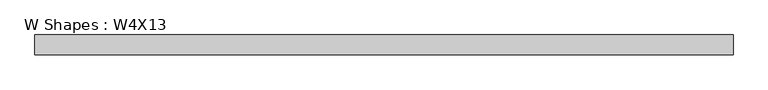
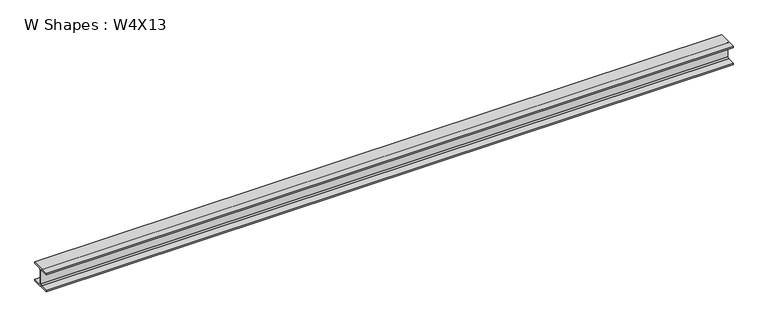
"""IFC4 building model written with IfcOpenShell, lengths in millimetres: beam geometry, W Shapes : W4X13."""

import ifcopenshell
import ifcopenshell.guid

model = None  # the IFC model being written
_history = None  # IfcOwnerHistory: only IFC2X3 demands one
_inside = {}  # id of a spatial element -> (the spatial element, [elements in it])
_under = {}  # id of a project, library or spatial element -> (it, [spatial elements below it])
_declared = {}  # id of a project -> (the project, [libraries it declares])
_typed = {}  # id of a type object -> (the type object, [elements of that type])
_made_of = {}  # id of a material, layer set ... -> (it, [elements and type objects made of it])


def new_model(schema):
    """Start an empty IFC model of exactly this schema.

    Asked for "IFC4X3", IfcOpenShell would pick the latest addendum, in which some entities
    have other attributes; the version numbers below select the first issue.
    IFC2X3 requires an IfcOwnerHistory on every rooted entity: one is made here for all.
    """
    global model, _history
    if schema == "IFC4X3":
        model = ifcopenshell.file(schema_version=(4, 3, 0, 0))
    else:
        model = ifcopenshell.file(schema=schema)
    _inside.clear()
    _under.clear()
    _declared.clear()
    _typed.clear()
    _made_of.clear()
    _history = None
    if model.schema == "IFC2X3":
        org = make("IfcOrganization", Name="unknown")
        user = make(
            "IfcPersonAndOrganization",
            ThePerson=make("IfcPerson", FamilyName="unknown"),
            TheOrganization=org,
        )
        app = make(
            "IfcApplication",
            ApplicationDeveloper=org,
            Version="unknown",
            ApplicationFullName="unknown",
            ApplicationIdentifier="unknown",
        )
        _history = make(
            "IfcOwnerHistory",
            OwningUser=user,
            OwningApplication=app,
            ChangeAction="ADDED",
            CreationDate=0,
        )
    return model


def make(cls, **values):
    """One entity of the class cls with the attributes given. An attribute that is None is left unset."""
    return model.create_entity(
        cls, **{name: value for name, value in values.items() if value is not None}
    )


def rooted(cls, **values):
    """An entity with a GlobalId (a new one), such as an element, a storey or a relation."""
    return make(cls, GlobalId=ifcopenshell.guid.new(), OwnerHistory=_history, **values)


def si_unit(unit_type, name, prefix=None):
    """IfcSIUnit, for example si_unit("LENGTHUNIT", "METRE", prefix="MILLI")."""
    return make("IfcSIUnit", UnitType=unit_type, Prefix=prefix, Name=name)


def assignment(units):
    """IfcUnitAssignment: the units of a project."""
    return None if units is None else make("IfcUnitAssignment", Units=units)


def point(xyz):
    """IfcCartesianPoint."""
    return None if xyz is None else make("IfcCartesianPoint", Coordinates=xyz)


def direction(xyz):
    """IfcDirection."""
    return None if xyz is None else make("IfcDirection", DirectionRatios=xyz)


def frame(location, z_axis=None, x_axis=None):
    """IfcAxis2Placement3D, a coordinate frame: its origin and axes. An axis left out is left unset."""
    return make(
        "IfcAxis2Placement3D",
        Location=point(location),
        Axis=direction(z_axis),
        RefDirection=direction(x_axis),
    )


def frame_2d(location, x_axis=None):
    """IfcAxis2Placement2D, a coordinate frame in the plane: its origin and x axis."""
    return make(
        "IfcAxis2Placement2D", Location=point(location), RefDirection=direction(x_axis)
    )


def origin():
    """The frame at (0, 0, 0) with its axes left unset."""
    return frame((0.0, 0.0, 0.0))


def place(relative_to, where):
    """IfcLocalPlacement: puts the frame where relative to a parent placement (None: the world)."""
    return make(
        "IfcLocalPlacement", PlacementRelTo=relative_to, RelativePlacement=where
    )


def context(
    kind, dimensions, precision=None, world=None, true_north=None, identifier=None
):
    """IfcGeometricRepresentationContext, for example the 3D "Model" context."""
    return make(
        "IfcGeometricRepresentationContext",
        ContextIdentifier=identifier,
        ContextType=kind,
        CoordinateSpaceDimension=dimensions,
        Precision=precision,
        WorldCoordinateSystem=world,
        TrueNorth=true_north,
    )


def project(units=None, contexts=None):
    """IfcProject with its units and contexts."""
    return rooted(
        "IfcProject",
        Name="project",
        RepresentationContexts=contexts,
        UnitsInContext=assignment(units),
    )


def spatial(cls, under=None, at=None, **own):
    """A site, building, storey or space (cls), placed at a placement, below another one or the project."""
    s = rooted(cls, ObjectPlacement=at, **own)
    if under is not None:
        _under.setdefault(under.id(), (under, []))[1].append(s)
    return s


def polyline(points):
    """IfcPolyline through the points."""
    return make("IfcPolyline", Points=[point(p) for p in points])


def circle_curve(where, radius):
    """IfcCircle in the frame where."""
    return make("IfcCircle", Position=where, Radius=radius)


def trimmed(basis, trim1, trim2, sense, master):
    """IfcTrimmedCurve: the piece of a basis curve between two trims."""
    return make(
        "IfcTrimmedCurve",
        BasisCurve=basis,
        Trim1=trim1,
        Trim2=trim2,
        SenseAgreement=sense,
        MasterRepresentation=master,
    )


def segment(curve, same_sense, transition):
    """IfcCompositeCurveSegment."""
    return make(
        "IfcCompositeCurveSegment",
        Transition=transition,
        SameSense=same_sense,
        ParentCurve=curve,
    )


def composite_curve(segments, self_intersect=None):
    """IfcCompositeCurve: segments joined end to end."""
    return make("IfcCompositeCurve", Segments=segments, SelfIntersect=self_intersect)


def outline(outer, holes=None, kind="AREA"):
    """IfcArbitraryClosedProfileDef: a profile drawn as a closed curve; with holes, ...WithVoids."""
    if holes is None:
        return make("IfcArbitraryClosedProfileDef", ProfileType=kind, OuterCurve=outer)
    return make(
        "IfcArbitraryProfileDefWithVoids",
        ProfileType=kind,
        OuterCurve=outer,
        InnerCurves=holes,
    )


def extrude(swept, where, along, depth):
    """IfcExtrudedAreaSolid: the profile swept, set in the frame where, extruded along a direction by depth."""
    return make(
        "IfcExtrudedAreaSolid",
        SweptArea=swept,
        Position=where,
        ExtrudedDirection=direction(along),
        Depth=depth,
    )


def shape(context_of_items, identifier, shape_type, items):
    """IfcShapeRepresentation: the items that make up one representation, for example the "Body"."""
    return make(
        "IfcShapeRepresentation",
        ContextOfItems=context_of_items,
        RepresentationIdentifier=identifier,
        RepresentationType=shape_type,
        Items=items,
    )


def source(mapping_origin, context_of_items, identifier, shape_type, items):
    """IfcRepresentationMap: a shape defined once, which mapped items show again and again."""
    return make(
        "IfcRepresentationMap",
        MappingOrigin=mapping_origin,
        MappedRepresentation=shape(context_of_items, identifier, shape_type, items),
    )


def transform(
    local_origin,
    x_axis=None,
    y_axis=None,
    z_axis=None,
    scale=None,
    scale2=None,
    scale3=None,
    uniform=True,
):
    """IfcCartesianTransformationOperator3D, or its non-uniform kind. x_axis, y_axis, z_axis: its Axis1, 2, 3."""
    if uniform:
        return make(
            "IfcCartesianTransformationOperator3D",
            Axis1=direction(x_axis),
            Axis2=direction(y_axis),
            LocalOrigin=point(local_origin),
            Scale=scale,
            Axis3=direction(z_axis),
        )
    return make(
        "IfcCartesianTransformationOperator3DnonUniform",
        Axis1=direction(x_axis),
        Axis2=direction(y_axis),
        LocalOrigin=point(local_origin),
        Scale=scale,
        Axis3=direction(z_axis),
        Scale2=scale2,
        Scale3=scale3,
    )


def mapped(mapping_source, mapping_target):
    """IfcMappedItem: shows the shape of a source again, moved by a transform."""
    return make(
        "IfcMappedItem", MappingSource=mapping_source, MappingTarget=mapping_target
    )


def made_of(thing, what):
    """Note that an element or type object is made of a material, layer set ...; save() writes the relation."""
    if what is not None:
        _made_of.setdefault(what.id(), (what, []))[1].append(thing)
    return thing


def element(
    cls,
    number,
    at=None,
    inside=None,
    cuts=None,
    type_object=None,
    material=None,
    context=None,
    identifier="Body",
    shape_type=None,
    held_by="IfcProductDefinitionShape",
    body=None,
    shapes=None,
    **own,
):
    """One element of the class cls, such as IfcWall. Its Tag is "e" and its number.

    at: its placement. inside: the storey or other place that contains it. cuts: it is an
    opening in that element (IfcRelVoidsElement). A single representation is given by context,
    identifier, shape_type and body (its items); several are given by shapes. held_by: the class
    of the entity that holds the representations. save() writes the other relations.
    """
    e = rooted(cls, Tag="e%d" % number, ObjectPlacement=at, **own)
    if body is not None:
        shapes = [shape(context, identifier, shape_type, body)]
    if shapes is not None:
        e.Representation = make(held_by, Representations=shapes)
    if inside is not None:
        _inside.setdefault(inside.id(), (inside, []))[1].append(e)
    if cuts is not None:
        rooted(
            "IfcRelVoidsElement", RelatingBuildingElement=cuts, RelatedOpeningElement=e
        )
    if type_object is not None:
        _typed.setdefault(type_object.id(), (type_object, []))[1].append(e)
    return made_of(e, material)


def aggregate(whole, parts):
    """IfcRelAggregates: a whole, such as a stair, and the parts it consists of."""
    return rooted("IfcRelAggregates", RelatingObject=whole, RelatedObjects=parts)


def save(model, path):
    """Write the relations noted so far, then the file.

    IfcRelAggregates (storeys below a building ...), IfcRelContainedInSpatialStructure (elements
    in a storey), IfcRelDefinesByType, IfcRelAssociatesMaterial and IfcRelDeclares: one each for
    every whole, place, type object, material and project.
    """
    for whole, parts in _under.values():
        aggregate(whole, parts)
    for where, things in _inside.values():
        rooted(
            "IfcRelContainedInSpatialStructure",
            RelatedElements=things,
            RelatingStructure=where,
        )
    for kind, things in _typed.values():
        rooted("IfcRelDefinesByType", RelatedObjects=things, RelatingType=kind)
    for what, things in _made_of.values():
        rooted("IfcRelAssociatesMaterial", RelatedObjects=things, RelatingMaterial=what)
    for by, libraries in _declared.values():
        rooted("IfcRelDeclares", RelatingContext=by, RelatedDefinitions=libraries)
    model.write(path)


def w_shapes_w4x13_fcd76e32(model_context):
    return source(origin(), model_context, "Body", "SweptSolid", [
        extrude(outline(composite_curve([segment(polyline([(51.562, -44.069), (51.562, -52.832), (-51.562, -52.832), (-51.562, -44.069), (-9.906, -44.069)]), True, "CONTINUOUS"), segment(trimmed(circle_curve(frame_2d((-9.906, -37.719)), 6.35), [point((-9.906, -44.069))], [point((-3.556, -37.719))], True, "CARTESIAN"), True, "CONTINUOUS"), segment(polyline([(-3.556, -37.719), (-3.556, 37.719)]), True, "CONTINUOUS"), segment(trimmed(circle_curve(frame_2d((-9.906, 37.719)), 6.35), [point((-3.556, 37.719))], [point((-9.906, 44.069))], True, "CARTESIAN"), True, "CONTINUOUS"), segment(polyline([(-9.906, 44.069), (-51.562, 44.069), (-51.562, 52.832), (51.562, 52.832), (51.562, 44.069), (9.906, 44.069)]), True, "CONTINUOUS"), segment(trimmed(circle_curve(frame_2d((9.906, 37.719)), 6.35), [point((9.906, 44.069))], [point((3.556, 37.719))], True, "CARTESIAN"), True, "CONTINUOUS"), segment(polyline([(3.556, 37.719), (3.556, -37.719)]), True, "CONTINUOUS"), segment(trimmed(circle_curve(frame_2d((9.906, -37.719)), 6.35), [point((3.556, -37.719))], [point((9.906, -44.069))], True, "CARTESIAN"), True, "CONTINUOUS"), segment(polyline([(9.906, -44.069), (51.562, -44.069)]), True, "CONTINUOUS")], self_intersect=False)), frame((-1828.673, 0.0, 0.0), z_axis=(1.0, 0.0, 0.0), x_axis=(0.0, 1.0, 0.0)), (0.0, 0.0, 1.0), 3657.346),
    ])


if __name__ == "__main__":
    model = new_model("IFC4")
    model_context = context("Model", 3, world=origin())
    ifc_project = project(units=[si_unit("LENGTHUNIT", "METRE", prefix="MILLI")], contexts=[model_context])
    site = spatial("IfcSite", under=ifc_project)
    building = spatial("IfcBuilding", under=site)
    placement = place(None, origin())
    w_shapes_w4x13_shape = w_shapes_w4x13_fcd76e32(model_context)
    element("IfcBeam", 1, ObjectType="W Shapes : W4X13", at=placement, inside=building, context=model_context, shape_type="MappedRepresentation", body=[
        mapped(w_shapes_w4x13_shape, transform((0.0, 0.0, 0.0), x_axis=(1.0, 0.0, 0.0), y_axis=(0.0, 1.0, 0.0), z_axis=(0.0, 0.0, 1.0))),
    ])
    save(model, "model.ifc")
